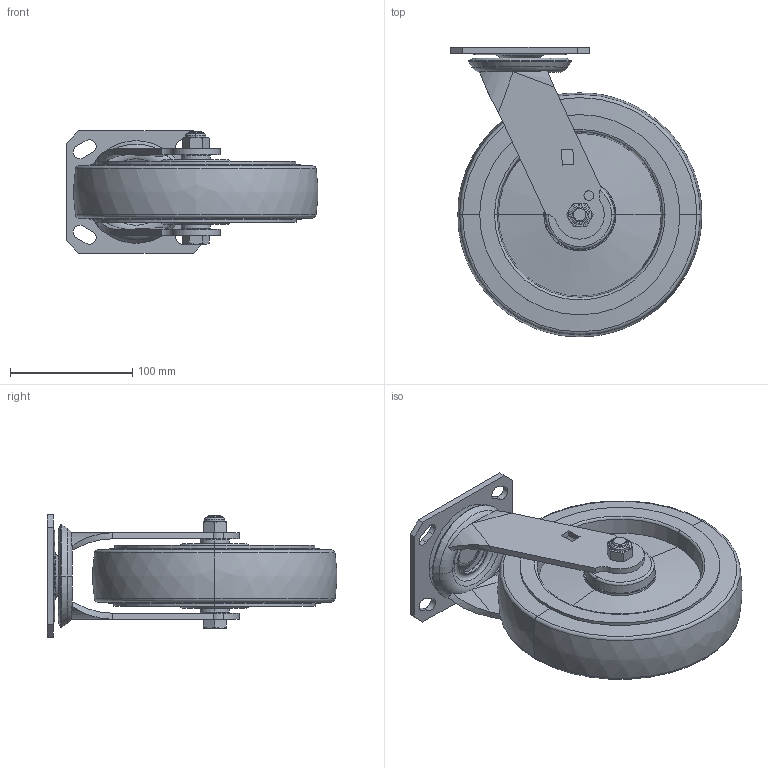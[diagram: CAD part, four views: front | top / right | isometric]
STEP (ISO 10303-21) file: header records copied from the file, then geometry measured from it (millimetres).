
FILE_DESCRIPTION((''),'2;1');
FILE_NAME('S7118_ASM','2021-10-19T',('lenovo'),(''),'PRO/ENGINEER BY PARAMETRIC TECHNOLOGY CORPORATION, 2010280','PRO/ENGINEER BY PARAMETRIC TECHNOLOGY CORPORATION, 2010280','');
FILE_SCHEMA(('CONFIG_CONTROL_DESIGN'));
Length unit declared in the file: millimetre
Products named in the file (8): S710-01; S710C03; S718C11; S718-11_ASM; S710-33; S710-34; 708-986; S7118_ASM
Assembly tree (7 placements, depth 3):
  S7118_ASM
    S710-01
    S718-11_ASM
      S710C03
      S718C11
    S710-33
    S710-34
    708-986
Bounding box: 205.79 x 236.79 x 100 mm (x, y, z)
Volume: 1352714.4 mm3; surface area: 180629.2 mm2
Topology: 7 solids, 7 shells, 235 faces, 522 edges, 316 vertices
Faces by surface type: plane 69, cylinder 62, cone 60, torus 34, bspline 10
Entity records: 7170 total; most frequent: CARTESIAN_POINT 1650, DIRECTION 1216, ORIENTED_EDGE 1044, EDGE_CURVE 522, AXIS2_PLACEMENT_3D 498, VERTEX_POINT 316, EDGE_LOOP 276, CIRCLE 256
